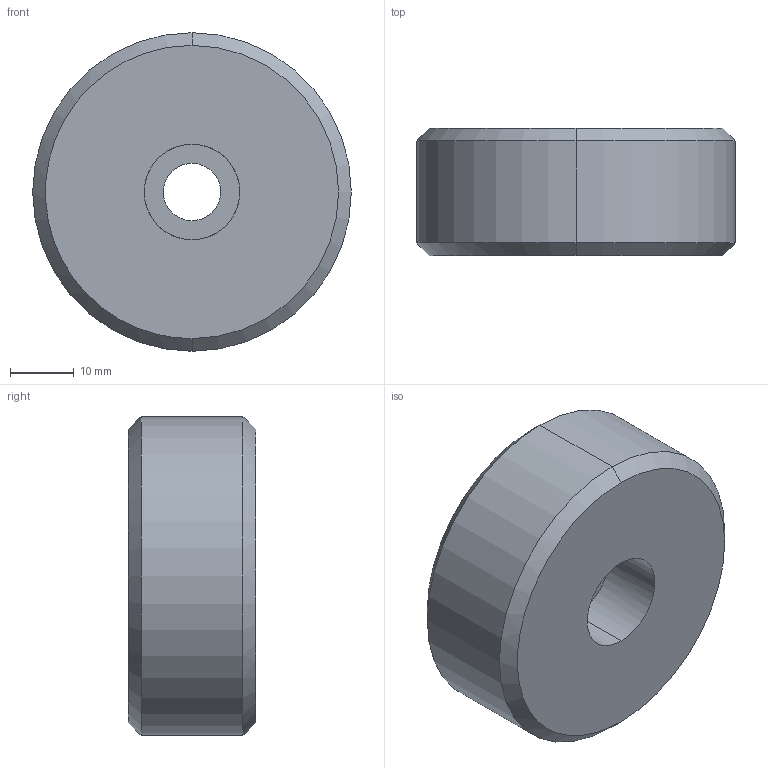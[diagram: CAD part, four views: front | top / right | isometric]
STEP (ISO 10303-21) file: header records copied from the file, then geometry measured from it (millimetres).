
FILE_DESCRIPTION(('CATIA V5 STEP Exchange'),'2;1');
FILE_NAME('C:\Users\Utente\Desktop\IO LAVORO\3D X SITO CF\X 3D SITO CF 27-09-2020\758\758+50+20+10.stp','2020-10-28T19:27:39+00:00',('none'),('none'),'CATIA Version 5 Release 20 GA (IN-10)','CATIA V5 STEP AP203','none');
FILE_SCHEMA(('CONFIG_CONTROL_DESIGN'));
Length unit declared in the file: millimetre
Products named in the file (1): 758+50+20+10
Bounding box: 50 x 20 x 50 mm (x, y, z)
Volume: 36255 mm3; surface area: 7316.9 mm2
Topology: 1 solids, 1 shells, 13 faces, 26 edges, 16 vertices
Faces by surface type: cylinder 6, cone 4, plane 3
Entity records: 515 total; most frequent: CARTESIAN_POINT 211, ORIENTED_EDGE 52, DIRECTION 45, EDGE_CURVE 26, AXIS2_PLACEMENT_3D 23, EDGE_LOOP 16, VERTEX_POINT 16, ADVANCED_FACE 13
